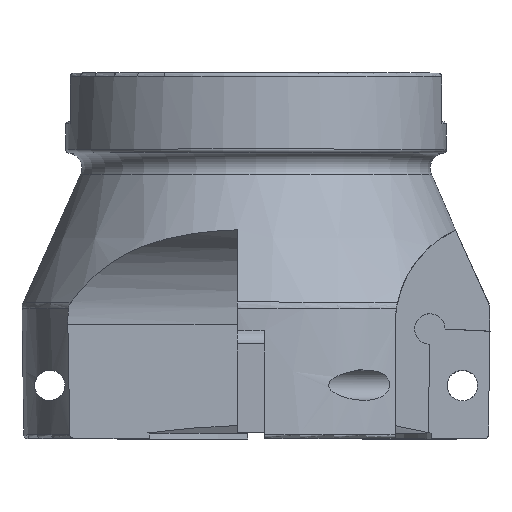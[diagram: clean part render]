
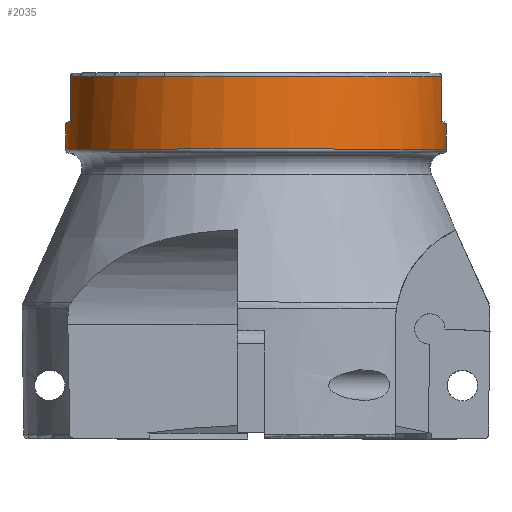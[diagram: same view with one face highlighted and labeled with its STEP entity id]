
A CAD part, top view. The second image highlights one B-rep face of the part: STEP entity #2035.
In plain terms, the highlighted cylindrical face has radius 25 mm (diameter 50 mm), a full revolution.
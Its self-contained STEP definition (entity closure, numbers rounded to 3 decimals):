
#190=CIRCLE('',#2182,25.);
#193=CIRCLE('',#2193,25.);
#194=CIRCLE('',#2194,25.);
#199=CIRCLE('',#2208,25.);
#202=CIRCLE('',#2213,25.);
#203=CIRCLE('',#2214,25.);
#204=CIRCLE('',#2215,25.);
#205=CIRCLE('',#2216,25.);
#250=CYLINDRICAL_SURFACE('',#2212,25.);
#337=FACE_OUTER_BOUND('',#450,.T.);
#450=EDGE_LOOP('',(#1735,#1736,#1737,#1738,#1739,#1740,#1741,#1742,#1743,
#1744,#1745,#1746,#1747,#1748));
#540=LINE('',#3541,#650);
#544=LINE('',#3555,#654);
#558=LINE('',#3786,#668);
#561=LINE('',#3841,#671);
#578=LINE('',#4186,#688);
#650=VECTOR('',#2534,10.);
#654=VECTOR('',#2540,10.);
#668=VECTOR('',#2576,10.);
#671=VECTOR('',#2581,10.);
#688=VECTOR('',#2644,25.);
#852=VERTEX_POINT('',#3520);
#855=VERTEX_POINT('',#3540);
#859=VERTEX_POINT('',#3552);
#860=VERTEX_POINT('',#3554);
#889=VERTEX_POINT('',#3783);
#890=VERTEX_POINT('',#3785);
#892=VERTEX_POINT('',#3820);
#895=VERTEX_POINT('',#3840);
#897=VERTEX_POINT('',#3849);
#926=VERTEX_POINT('',#4181);
#927=VERTEX_POINT('',#4182);
#928=VERTEX_POINT('',#4184);
#1121=EDGE_CURVE('',#855,#852,#540,.T.);
#1126=EDGE_CURVE('',#859,#860,#544,.T.);
#1133=EDGE_CURVE('',#860,#855,#190,.T.);
#1165=EDGE_CURVE('',#889,#890,#558,.T.);
#1171=EDGE_CURVE('',#895,#892,#561,.T.);
#1174=EDGE_CURVE('',#890,#897,#193,.T.);
#1175=EDGE_CURVE('',#897,#895,#194,.T.);
#1223=EDGE_CURVE('',#859,#892,#199,.T.);
#1226=EDGE_CURVE('',#926,#927,#202,.T.);
#1227=EDGE_CURVE('',#928,#926,#203,.T.);
#1228=EDGE_CURVE('',#928,#897,#578,.T.);
#1229=EDGE_CURVE('',#889,#852,#204,.T.);
#1230=EDGE_CURVE('',#927,#928,#205,.T.);
#1735=ORIENTED_EDGE('',*,*,#1226,.F.);
#1736=ORIENTED_EDGE('',*,*,#1227,.F.);
#1737=ORIENTED_EDGE('',*,*,#1228,.T.);
#1738=ORIENTED_EDGE('',*,*,#1174,.F.);
#1739=ORIENTED_EDGE('',*,*,#1165,.F.);
#1740=ORIENTED_EDGE('',*,*,#1229,.T.);
#1741=ORIENTED_EDGE('',*,*,#1121,.F.);
#1742=ORIENTED_EDGE('',*,*,#1133,.F.);
#1743=ORIENTED_EDGE('',*,*,#1126,.F.);
#1744=ORIENTED_EDGE('',*,*,#1223,.T.);
#1745=ORIENTED_EDGE('',*,*,#1171,.F.);
#1746=ORIENTED_EDGE('',*,*,#1175,.F.);
#1747=ORIENTED_EDGE('',*,*,#1228,.F.);
#1748=ORIENTED_EDGE('',*,*,#1230,.F.);
#2035=ADVANCED_FACE('',(#337),#250,.T.);
#2182=AXIS2_PLACEMENT_3D('',#3612,#2546,#2547);
#2193=AXIS2_PLACEMENT_3D('',#3850,#2585,#2586);
#2194=AXIS2_PLACEMENT_3D('',#3851,#2587,#2588);
#2208=AXIS2_PLACEMENT_3D('',#4176,#2630,#2631);
#2212=AXIS2_PLACEMENT_3D('',#4180,#2638,#2639);
#2213=AXIS2_PLACEMENT_3D('',#4183,#2640,#2641);
#2214=AXIS2_PLACEMENT_3D('',#4185,#2642,#2643);
#2215=AXIS2_PLACEMENT_3D('',#4187,#2645,#2646);
#2216=AXIS2_PLACEMENT_3D('',#4188,#2647,#2648);
#2534=DIRECTION('',(0.,1.,0.));
#2540=DIRECTION('',(0.,-1.,0.));
#2546=DIRECTION('center_axis',(0.,1.,0.));
#2547=DIRECTION('ref_axis',(1.,0.,0.));
#2576=DIRECTION('',(0.,-1.,0.));
#2581=DIRECTION('',(0.,1.,0.));
#2585=DIRECTION('center_axis',(0.,1.,0.));
#2586=DIRECTION('ref_axis',(-1.,0.,0.));
#2587=DIRECTION('center_axis',(0.,1.,0.));
#2588=DIRECTION('ref_axis',(-1.,0.,0.));
#2630=DIRECTION('center_axis',(0.,-1.,0.));
#2631=DIRECTION('ref_axis',(1.,0.,0.));
#2638=DIRECTION('center_axis',(0.,-1.,0.));
#2639=DIRECTION('ref_axis',(1.,0.,0.));
#2640=DIRECTION('center_axis',(0.,-1.,0.));
#2641=DIRECTION('ref_axis',(1.,0.,0.));
#2642=DIRECTION('center_axis',(0.,-1.,0.));
#2643=DIRECTION('ref_axis',(1.,0.,0.));
#2644=DIRECTION('',(0.,1.,0.));
#2645=DIRECTION('center_axis',(0.,-1.,0.));
#2646=DIRECTION('ref_axis',(1.,0.,0.));
#2647=DIRECTION('center_axis',(0.,-1.,0.));
#2648=DIRECTION('ref_axis',(1.,0.,0.));
#3520=CARTESIAN_POINT('',(24.4,26.25,-5.444));
#3540=CARTESIAN_POINT('',(24.4,20.1,-5.444));
#3541=CARTESIAN_POINT('',(24.4,21.5,-5.444));
#3552=CARTESIAN_POINT('',(24.4,26.25,5.444));
#3554=CARTESIAN_POINT('',(24.4,20.1,5.444));
#3555=CARTESIAN_POINT('',(24.4,21.5,5.444));
#3612=CARTESIAN_POINT('Origin',(0.,20.1,0.));
#3783=CARTESIAN_POINT('',(-24.4,26.25,-5.444));
#3785=CARTESIAN_POINT('',(-24.4,20.1,-5.444));
#3786=CARTESIAN_POINT('',(-24.4,21.5,-5.444));
#3820=CARTESIAN_POINT('',(-24.4,26.25,5.444));
#3840=CARTESIAN_POINT('',(-24.4,20.1,5.444));
#3841=CARTESIAN_POINT('',(-24.4,21.5,5.444));
#3849=CARTESIAN_POINT('',(-25.,20.1,0.));
#3850=CARTESIAN_POINT('Origin',(0.,20.1,0.));
#3851=CARTESIAN_POINT('Origin',(0.,20.1,0.));
#4176=CARTESIAN_POINT('Origin',(0.,26.25,0.));
#4180=CARTESIAN_POINT('Origin',(0.,21.5,0.));
#4181=CARTESIAN_POINT('',(25.,16.75,0.));
#4182=CARTESIAN_POINT('',(0.,16.75,25.));
#4183=CARTESIAN_POINT('Origin',(0.,16.75,0.));
#4184=CARTESIAN_POINT('',(-25.,16.75,0.));
#4185=CARTESIAN_POINT('Origin',(0.,16.75,0.));
#4186=CARTESIAN_POINT('',(-25.,21.5,0.));
#4187=CARTESIAN_POINT('Origin',(0.,26.25,0.));
#4188=CARTESIAN_POINT('Origin',(0.,16.75,0.));
